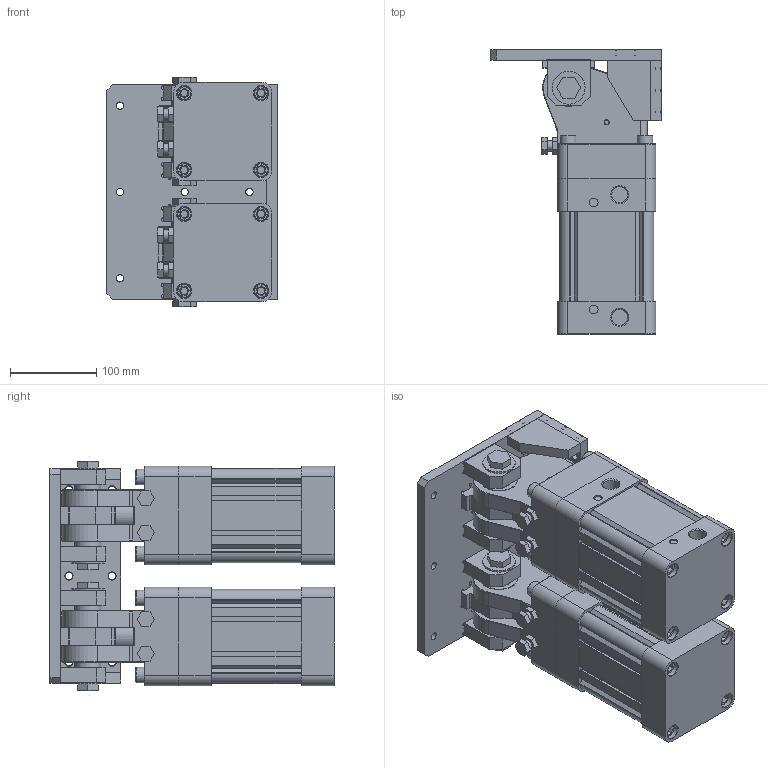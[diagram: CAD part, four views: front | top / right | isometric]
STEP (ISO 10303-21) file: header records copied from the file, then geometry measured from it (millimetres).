
FILE_DESCRIPTION(/* description */ (''),/* implementation_level */ '2;1');
FILE_NAME(/* name */ '2-DHR2C-100M65PPV-ZG-LB.stp',/* time_stamp */ '2025-06-12T08:29:26+08:00',/* author */ (''),/* organization */ (''),/* preprocessor_version */ 'ST-DEVELOPER v15',/* originating_system */ 'SIEMENS PLM Software NX 10.0',/* authorisation */ '');
FILE_SCHEMA (('AP203_CONFIGURATION_CONTROLLED_3D_DESIGN_OF_MECHANICAL_PARTS_AND_ASSEMBLIES_MIM_LF { 1 0 10303 403 2 1 2}'));
Length unit declared in the file: millimetre
Products named in the file (1): Admi31B8C635pvyr
Bounding box: 197 x 329 x 266 mm (x, y, z)
Volume: 7316455.1 mm3; surface area: 949558 mm2
Topology: 78 solids, 78 shells, 1988 faces, 4711 edges, 3049 vertices
Faces by surface type: plane 1120, cylinder 573, cone 261, torus 26, bspline 8
Full cylindrical faces by diameter (mm): 3.3 x4, 4.2 x8, 5 x28, 6 x22, 6.4 x8, 6.5 x10, 6.75 x8, 6.8 x4, 8.1 x4, 8.5 x35, 9.75 x14, 10 x12, 10.5 x22, 11 x32, 12 x16, 13 x12, 14 x12, 16 x8, 17 x8, 18 x8, 18.6 x4, 20 x16, 30 x8, 31 x4, 32 x2, 34 x2, 38 x4, 42 x8, 55 x2, 58 x2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
Entity records: 53796 total; most frequent: CARTESIAN_POINT 9851, DIRECTION 9320, ORIENTED_EDGE 7842, EDGE_CURVE 3921, AXIS2_PLACEMENT_3D 3470, EDGE_LOOP 2980, VERTEX_POINT 2869, LINE 2380
